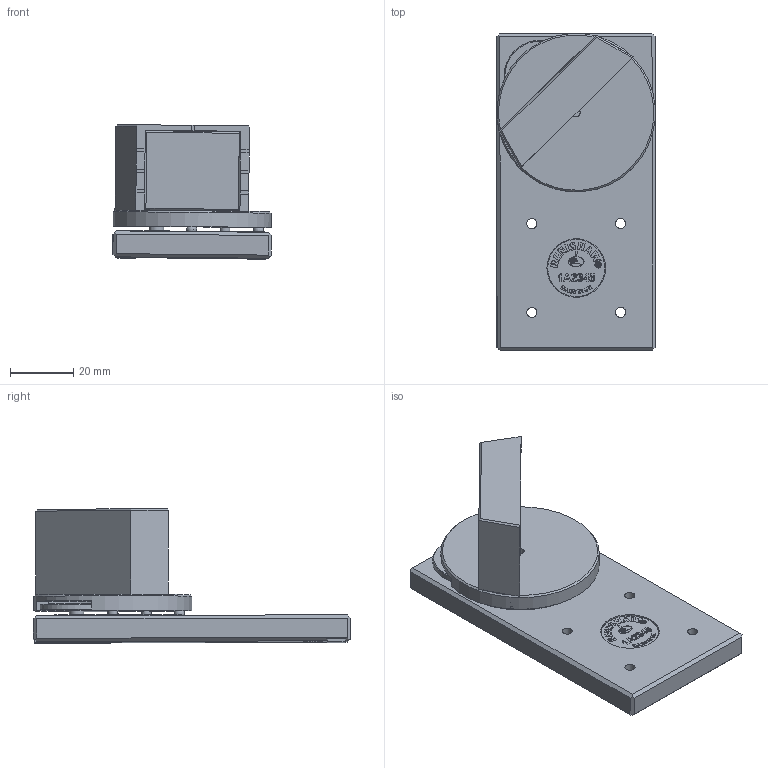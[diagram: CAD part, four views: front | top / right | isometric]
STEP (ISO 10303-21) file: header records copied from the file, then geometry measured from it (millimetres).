
FILE_DESCRIPTION(/* description */ (''),/* implementation_level */ '2;1');
FILE_NAME(/* name */ 'LA-8003-0655-A.stp',/* time_stamp */ '2015-03-31T16:04:30+01:00',/* author */ (''),/* organization */ (''),/* preprocessor_version */ 'ST-DEVELOPER v11',/* originating_system */ 'SIEMENS PLM Software NX 7.5',/* authorisation */ '');
FILE_SCHEMA (('AP203_CONFIGURATION_CONTROLLED_3D_DESIGN_OF_MECHANICAL_PARTS_AND_ASSEMBLIES_MIM_LF'));
Length unit declared in the file: millimetre
Products named in the file (1): da13E7542k7p
Bounding box: 50.2 x 100.08 x 42.52 mm (x, y, z)
Volume: 64301.2 mm3; surface area: 26240.3 mm2
Topology: 3 solids, 11 shells, 687 faces, 1805 edges, 1204 vertices
Faces by surface type: plane 518, extrusion 105, cylinder 54, cone 8, sphere 2
Full cylindrical faces by diameter (mm): 1.7 x1, 2 x6, 2.1 x4, 2.6 x3, 3 x3, 3.2 x4, 3.5 x1, 3.8 x4, 4 x4, 4.6 x1, 6 x4, 6.4 x1, 8 x1, 12 x1, 18 x1, 18.5 x1, 23 x1, 50 x1
Entity records: 21378 total; most frequent: CARTESIAN_POINT 4402, ORIENTED_EDGE 3430, DIRECTION 2886, EDGE_CURVE 1715, VECTOR 1472, LINE 1367, VERTEX_POINT 1168, EDGE_LOOP 825
